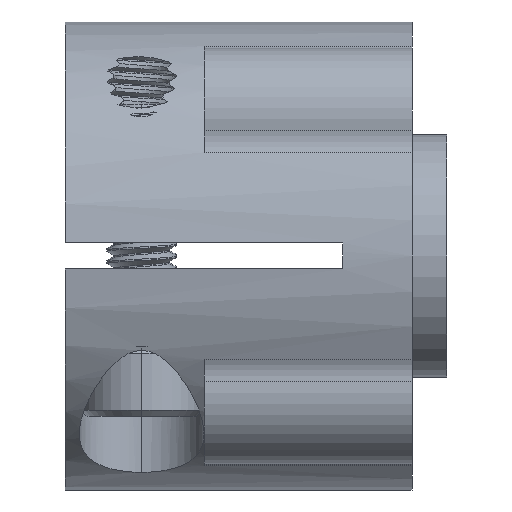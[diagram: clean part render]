
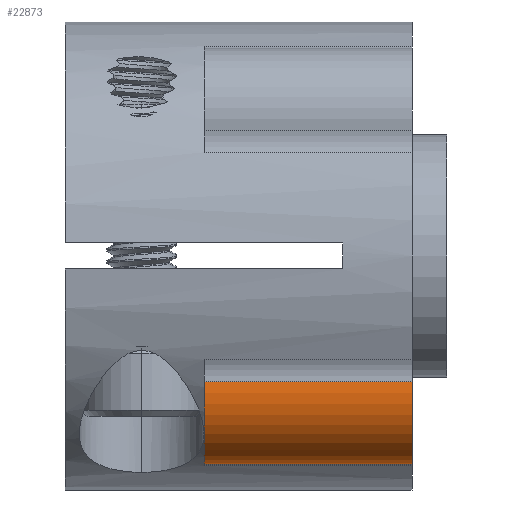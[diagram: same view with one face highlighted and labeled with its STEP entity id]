
A CAD part, left-side view. The second image highlights one B-rep face of the part: STEP entity #22873.
In plain terms, the highlighted cylindrical face has radius 4 mm (diameter 8 mm), a partial arc.
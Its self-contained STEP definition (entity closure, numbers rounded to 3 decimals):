
#538 = CARTESIAN_POINT ( 'NONE',  ( -11.929, 22., -7.248 ) ) ;
#584 = EDGE_CURVE ( 'NONE', #6778, #37057, #41009, .T. ) ;
#2101 = CARTESIAN_POINT ( 'NONE',  ( -8., 2., -8. ) ) ;
#2129 = CIRCLE ( 'NONE', #18675, 4. ) ;
#5296 = DIRECTION ( 'NONE',  ( 0., 0., -1. ) ) ;
#6778 = VERTEX_POINT ( 'NONE', #43546 ) ;
#9649 = DIRECTION ( 'NONE',  ( 0., 1., 0. ) ) ;
#9964 = EDGE_CURVE ( 'NONE', #6778, #41384, #23416, .T. ) ;
#11139 = CARTESIAN_POINT ( 'NONE',  ( -8., 22., -12. ) ) ;
#13048 = DIRECTION ( 'NONE',  ( 0., -1., 0. ) ) ;
#14285 = ORIENTED_EDGE ( 'NONE', *, *, #584, .T. ) ;
#14427 = DIRECTION ( 'NONE',  ( 0., -1., 0. ) ) ;
#14897 = AXIS2_PLACEMENT_3D ( 'NONE', #47067, #19141, #19496 ) ;
#15188 = VERTEX_POINT ( 'NONE', #47779 ) ;
#18675 = AXIS2_PLACEMENT_3D ( 'NONE', #2101, #29871, #42062 ) ;
#19141 = DIRECTION ( 'NONE',  ( 0., 1., 0. ) ) ;
#19496 = DIRECTION ( 'NONE',  ( 0., 0., 1. ) ) ;
#22873 = ADVANCED_FACE ( 'NONE', ( #32354 ), #37226, .T. ) ;
#23416 = CIRCLE ( 'NONE', #14897, 4. ) ;
#25686 = EDGE_LOOP ( 'NONE', ( #41097, #14285, #35011, #27156 ) ) ;
#27156 = ORIENTED_EDGE ( 'NONE', *, *, #29645, .T. ) ;
#29123 = CARTESIAN_POINT ( 'NONE',  ( -11.929, 14., -7.248 ) ) ;
#29645 = EDGE_CURVE ( 'NONE', #15188, #41384, #38259, .T. ) ;
#29871 = DIRECTION ( 'NONE',  ( 0., 1., 0. ) ) ;
#31215 = VECTOR ( 'NONE', #14427, 1000. ) ;
#32354 = FACE_OUTER_BOUND ( 'NONE', #25686, .T. ) ;
#33611 = EDGE_CURVE ( 'NONE', #37057, #15188, #2129, .T. ) ;
#35011 = ORIENTED_EDGE ( 'NONE', *, *, #33611, .T. ) ;
#35818 = VECTOR ( 'NONE', #9649, 1000. ) ;
#36604 = CARTESIAN_POINT ( 'NONE',  ( -8., 22., -8. ) ) ;
#37057 = VERTEX_POINT ( 'NONE', #48749 ) ;
#37226 = CYLINDRICAL_SURFACE ( 'NONE', #44529, 4. ) ;
#38259 = LINE ( 'NONE', #538, #35818 ) ;
#41009 = LINE ( 'NONE', #11139, #31215 ) ;
#41097 = ORIENTED_EDGE ( 'NONE', *, *, #9964, .F. ) ;
#41384 = VERTEX_POINT ( 'NONE', #29123 ) ;
#42062 = DIRECTION ( 'NONE',  ( 0., 0., 1. ) ) ;
#43546 = CARTESIAN_POINT ( 'NONE',  ( -8., 14., -12. ) ) ;
#44529 = AXIS2_PLACEMENT_3D ( 'NONE', #36604, #13048, #5296 ) ;
#47067 = CARTESIAN_POINT ( 'NONE',  ( -8., 14., -8. ) ) ;
#47779 = CARTESIAN_POINT ( 'NONE',  ( -11.929, 2., -7.248 ) ) ;
#48749 = CARTESIAN_POINT ( 'NONE',  ( -8., 2., -12. ) ) ;
